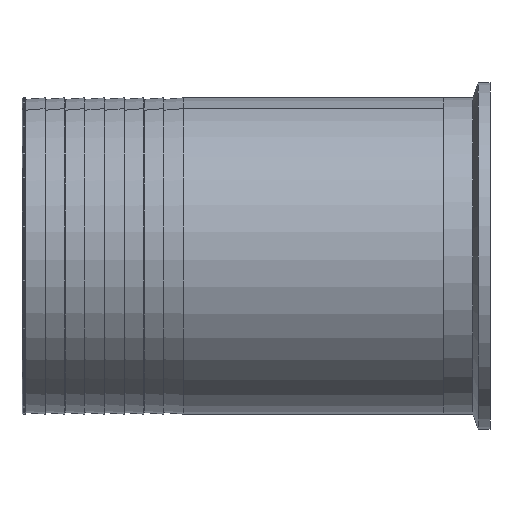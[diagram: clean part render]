
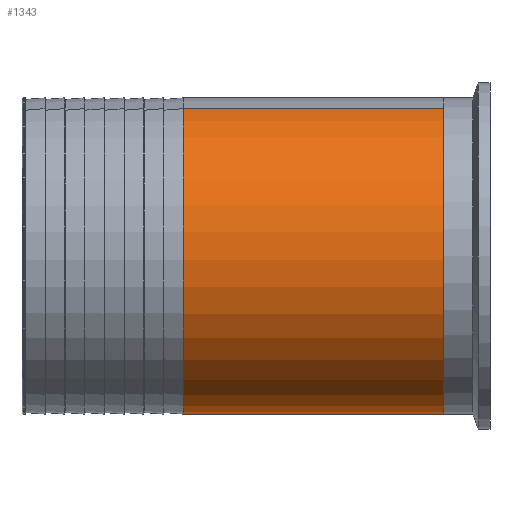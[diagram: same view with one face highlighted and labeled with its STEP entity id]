
A CAD part, left-side view. The second image highlights one B-rep face of the part: STEP entity #1343.
In plain terms, the highlighted cylindrical face has radius 76.2 mm (diameter 152.4 mm), a partial arc.
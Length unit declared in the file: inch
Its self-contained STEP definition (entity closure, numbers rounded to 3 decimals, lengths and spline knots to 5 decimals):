
#29 = VERTEX_POINT ( 'NONE', #252 ) ;
#176 = CARTESIAN_POINT ( 'NONE',  ( 0., -3., 0. ) ) ;
#198 = DIRECTION ( 'NONE',  ( 1., 0., 0. ) ) ;
#252 = CARTESIAN_POINT ( 'NONE',  ( -4.938, -3., 0. ) ) ;
#312 = DIRECTION ( 'NONE',  ( 1., 0., 0. ) ) ;
#399 = VERTEX_POINT ( 'NONE', #1188 ) ;
#451 = CARTESIAN_POINT ( 'NONE',  ( 0., 0., 0. ) ) ;
#511 = AXIS2_PLACEMENT_3D ( 'NONE', #702, #1810, #846 ) ;
#590 = DIRECTION ( 'NONE',  ( 0., 1., 0. ) ) ;
#662 = CYLINDRICAL_SURFACE ( 'NONE', #1809, 3. ) ;
#702 = CARTESIAN_POINT ( 'NONE',  ( -4.938, 0., 0. ) ) ;
#704 = FACE_OUTER_BOUND ( 'NONE', #1636, .T. ) ;
#728 = VECTOR ( 'NONE', #312, 39.37008 ) ;
#751 = CIRCLE ( 'NONE', #1887, 3. ) ;
#772 = LINE ( 'NONE', #176, #775 ) ;
#775 = VECTOR ( 'NONE', #1333, 39.37008 ) ;
#816 = LINE ( 'NONE', #1175, #728 ) ;
#824 = CIRCLE ( 'NONE', #511, 3. ) ;
#846 = DIRECTION ( 'NONE',  ( 0., 1., 0. ) ) ;
#1167 = ORIENTED_EDGE ( 'NONE', *, *, #1180, .T. ) ;
#1175 = CARTESIAN_POINT ( 'NONE',  ( 0., 3., 0. ) ) ;
#1180 = EDGE_CURVE ( 'NONE', #1629, #29, #824, .T. ) ;
#1188 = CARTESIAN_POINT ( 'NONE',  ( 0., 3., 0. ) ) ;
#1218 = ORIENTED_EDGE ( 'NONE', *, *, #1222, .T. ) ;
#1222 = EDGE_CURVE ( 'NONE', #29, #1582, #772, .T. ) ;
#1240 = ORIENTED_EDGE ( 'NONE', *, *, #1251, .F. ) ;
#1241 = ORIENTED_EDGE ( 'NONE', *, *, #1264, .F. ) ;
#1251 = EDGE_CURVE ( 'NONE', #399, #1582, #751, .T. ) ;
#1264 = EDGE_CURVE ( 'NONE', #1629, #399, #816, .T. ) ;
#1333 = DIRECTION ( 'NONE',  ( 1., 0., 0. ) ) ;
#1343 = ADVANCED_FACE ( 'NONE', ( #704 ), #662, .T. ) ;
#1363 = DIRECTION ( 'NONE',  ( 0., 1., 0. ) ) ;
#1403 = CARTESIAN_POINT ( 'NONE',  ( -4.938, 3., 0. ) ) ;
#1510 = DIRECTION ( 'NONE',  ( 1., 0., 0. ) ) ;
#1582 = VERTEX_POINT ( 'NONE', #1864 ) ;
#1629 = VERTEX_POINT ( 'NONE', #1403 ) ;
#1636 = EDGE_LOOP ( 'NONE', ( #1167, #1218, #1240, #1241 ) ) ;
#1809 = AXIS2_PLACEMENT_3D ( 'NONE', #1848, #198, #1363 ) ;
#1810 = DIRECTION ( 'NONE',  ( 1., 0., 0. ) ) ;
#1848 = CARTESIAN_POINT ( 'NONE',  ( 0., 0., 0. ) ) ;
#1864 = CARTESIAN_POINT ( 'NONE',  ( 0., -3., 0. ) ) ;
#1887 = AXIS2_PLACEMENT_3D ( 'NONE', #451, #1510, #590 ) ;
